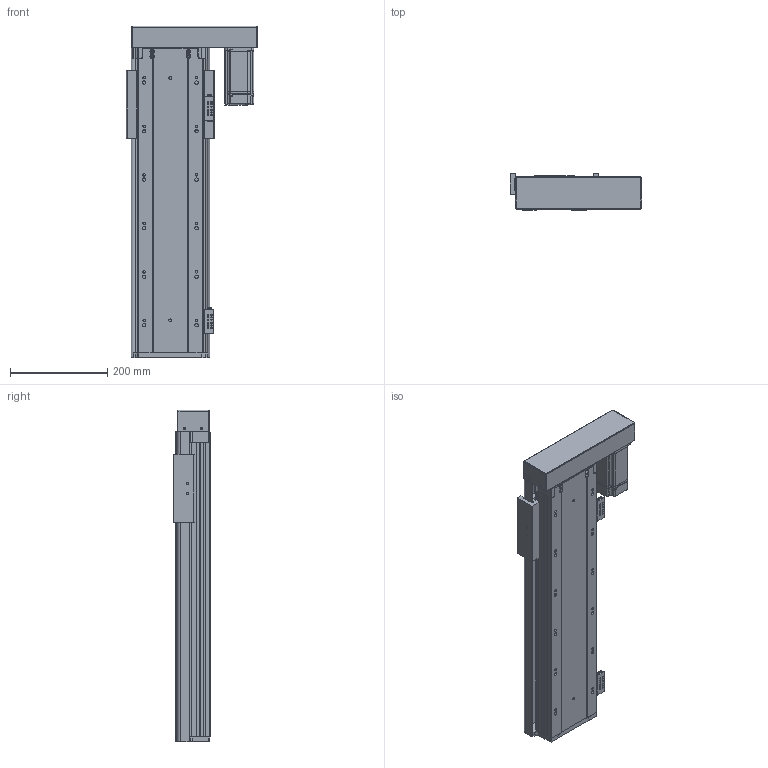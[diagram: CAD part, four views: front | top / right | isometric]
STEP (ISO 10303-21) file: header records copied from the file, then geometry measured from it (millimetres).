
FILE_DESCRIPTION (( 'STEP AP203' ), '1' );
FILE_NAME ('RY140FB-L2010-300-RK.SLDASM_400.step', '2021-02-23T02:40:52', ( '盈信电脑' ), ( '东莞市道滘镇水果街19号' ), 'SwSTEP 2.0', 'SolidWorks 2012', '' );
FILE_SCHEMA (( 'CONFIG_CONTROL_DESIGN' ));
Products named in the file (17): RY140FB-酘衵殏萇儂欶; RY140FB-L2010-300-RK.SLDASM_400; RY140-674嫖萇耀輸; RY140FB-左右折电机安装板; RY140FB-覜茼え; RY140FB-300蛌殏奻裔啣-RK_400; 覜茼ん674; RY140直线电机感应器674光电安装座; RY140FB-转折电机端支撑座(7002); RY140FB-20佪裝臏賑輸; 侂狟400W侜督萇儂; 15; 滅袉蝶18-24; 滅袉蝶18-10; RY140FB-綴裔啣; RY140FB-300蛌殏倰第菁釱-RK_400
Assembly tree (20 placements, depth 3):
  RY140FB-L2010-300-RK.SLDASM_400
    RY140FB-300蛌殏倰第菁釱-RK_400
    RY140FB-綴裔啣
    滅袉蝶18-24  x2
    滅袉蝶18-10
    RY140FB-转折电机端支撑座(7002)
    侂狟400W侜督萇儂
      15
    RY140FB-20佪裝臏賑輸
    RY140FB-300蛌殏奻裔啣-RK_400
    RY140-674嫖萇耀輸
      覜茼ん674
      RY140直线电机感应器674光电安装座
    RY140-674嫖萇耀輸
      覜茼ん674  x2
      RY140直线电机感应器674光电安装座
    RY140FB-覜茼え
    RY140FB-左右折电机安装板
    RY140FB-酘衵殏萇儂欶
Bounding box: 271.3 x 75 x 683.2 mm (x, y, z)
Volume: 3142649.6 mm3; surface area: 1017972.2 mm2
Topology: 17 solids, 17 shells, 1718 faces, 4671 edges, 2975 vertices
Faces by surface type: cylinder 813, plane 723, cone 154, bspline 28
Entity records: 51325 total; most frequent: CARTESIAN_POINT 10171, DIRECTION 8368, ORIENTED_EDGE 8082, EDGE_CURVE 4041, AXIS2_PLACEMENT_3D 3012, VERTEX_POINT 2643, VECTOR 2344, LINE 2344
